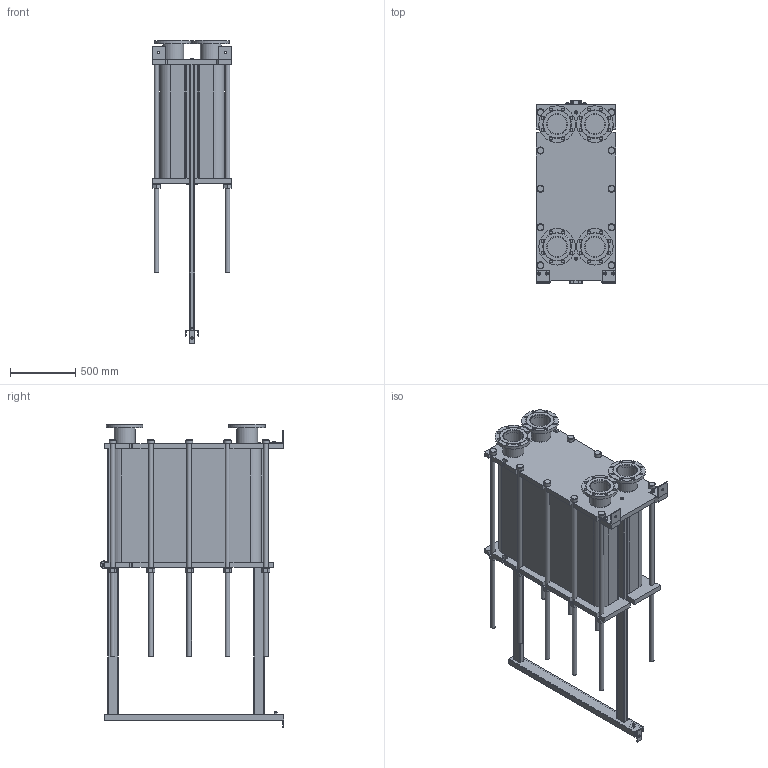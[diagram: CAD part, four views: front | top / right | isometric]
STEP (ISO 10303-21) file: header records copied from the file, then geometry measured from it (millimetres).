
FILE_DESCRIPTION(/* description */ (''),/* implementation_level */ '2;1');
FILE_NAME(/* name */ 'C:\Users\zhuro\Desktop\ENCO\TO\ЭН-041\ЭН-0,5-041-252-1.stp',/* time_stamp */ '2022-06-06T11:10:11+03:00',/* author */ ('zhuro'),/* organization */ (''),/* preprocessor_version */ 'ST-DEVELOPER v18.1',/* originating_system */ 'Autodesk Inventor 2022',/* authorisation */ '');
FILE_SCHEMA (('AUTOMOTIVE_DESIGN { 1 0 10303 214 3 1 1 }'));
Length unit declared in the file: millimetre
Products named in the file (1): ЭН-0,5-041-252-1
Bounding box: 610 x 1406.5 x 2330 mm (x, y, z)
Volume: 580137551 mm3; surface area: 12375986.5 mm2
Topology: 52 solids, 52 shells, 711 faces, 1696 edges, 1094 vertices
Faces by surface type: plane 487, cylinder 177, cone 41, torus 6
Full cylindrical faces by diameter (mm): 8 x4, 10 x2, 16 x8, 18 x3, 22 x32, 36 x24, 50 x1, 54 x10, 60 x12, 151 x4, 161 x8, 280 x4
Entity records: 22667 total; most frequent: CARTESIAN_POINT 5230, DIRECTION 3644, ORIENTED_EDGE 3392, EDGE_CURVE 1696, AXIS2_PLACEMENT_3D 1272, LINE 1100, VECTOR 1100, VERTEX_POINT 1094
